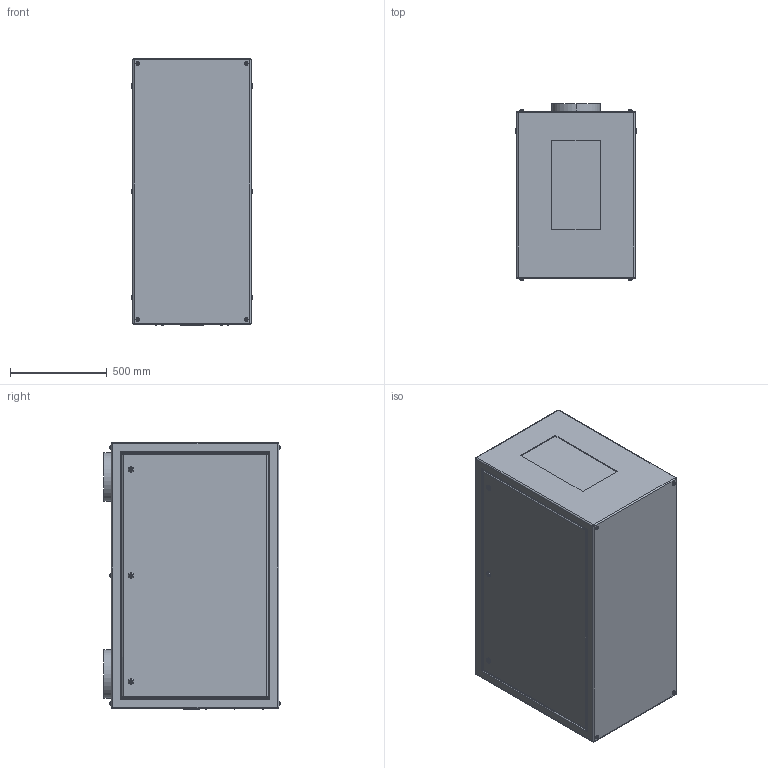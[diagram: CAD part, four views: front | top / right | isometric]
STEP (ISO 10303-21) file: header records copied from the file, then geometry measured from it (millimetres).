
FILE_DESCRIPTION (( 'STEP AP214' ), '1' );
FILE_NAME ('Tacit 56.310.P R08.STEP', '2022-09-11T22:37:36', ( '' ), ( '' ), 'SwSTEP 2.0', 'SolidWorks 2020', '' );
FILE_SCHEMA (( 'AUTOMOTIVE_DESIGN' ));
Length unit declared in the file: inch
Products named in the file (1): Tacit 56.310.P R08
Bounding box: 622.3 x 908.95 x 1376.68 mm (x, y, z)
Volume: 720665783.8 mm3; surface area: 5481388.9 mm2
Topology: 1 solids, 7 shells, 401 faces, 892 edges, 560 vertices
Faces by surface type: plane 177, cylinder 168, torus 48, sphere 8
Entity records: 15011 total; most frequent: CARTESIAN_POINT 2382, DIRECTION 1972, ORIENTED_EDGE 1768, EDGE_CURVE 884, AXIS2_PLACEMENT_3D 782, VERTEX_POINT 560, EDGE_LOOP 464, LINE 408
